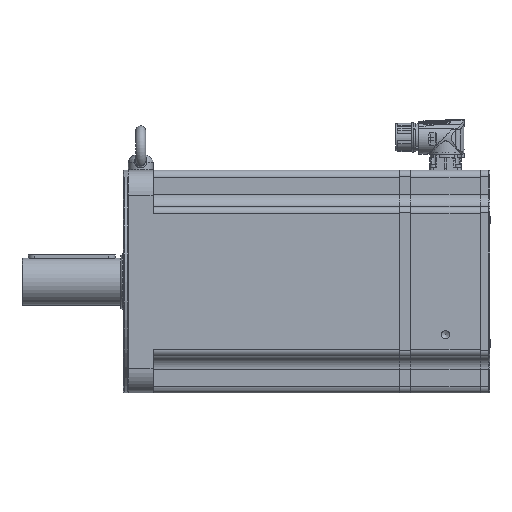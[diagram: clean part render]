
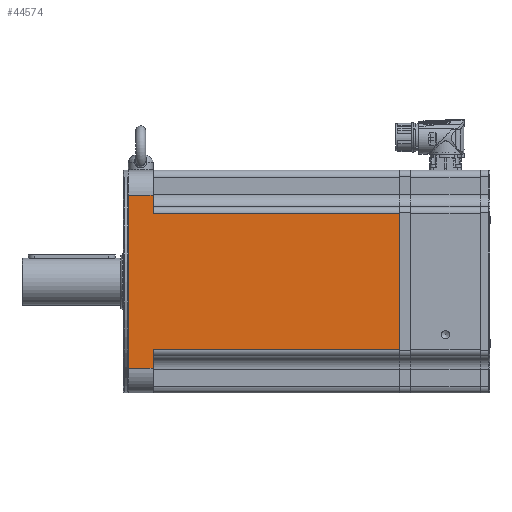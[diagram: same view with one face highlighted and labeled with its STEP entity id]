
A CAD part, left-side view. The second image highlights one B-rep face of the part: STEP entity #44574.
In plain terms, the highlighted planar face has unit normal (-1, 0, 0) as drawn and (1, 0, 0) by its records, which use the part's own axes.
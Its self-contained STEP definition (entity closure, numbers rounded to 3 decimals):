
#1158=PLANE('',#47674);
#4840=LINE('',#71302,#6738);
#4854=LINE('',#71377,#6752);
#4861=LINE('',#71422,#6759);
#4869=LINE('',#71446,#6767);
#4870=LINE('',#71447,#6768);
#4871=LINE('',#71449,#6769);
#4872=LINE('',#71451,#6770);
#4873=LINE('',#71452,#6771);
#6738=VECTOR('',#54956,1000.);
#6752=VECTOR('',#55024,1000.);
#6759=VECTOR('',#55069,1000.);
#6767=VECTOR('',#55093,1000.);
#6768=VECTOR('',#55094,1000.);
#6769=VECTOR('',#55095,1000.);
#6770=VECTOR('',#55096,1000.);
#6771=VECTOR('',#55097,1000.);
#13896=ORIENTED_EDGE('',*,*,#19395,.F.);
#13897=ORIENTED_EDGE('',*,*,#19461,.T.);
#13898=ORIENTED_EDGE('',*,*,#19429,.F.);
#13899=ORIENTED_EDGE('',*,*,#19462,.T.);
#13900=ORIENTED_EDGE('',*,*,#19463,.F.);
#13901=ORIENTED_EDGE('',*,*,#19464,.T.);
#13902=ORIENTED_EDGE('',*,*,#19449,.F.);
#13903=ORIENTED_EDGE('',*,*,#19465,.T.);
#19395=EDGE_CURVE('',#22793,#22794,#4840,.T.);
#19429=EDGE_CURVE('',#22827,#22828,#4854,.T.);
#19449=EDGE_CURVE('',#22847,#22848,#4861,.T.);
#19461=EDGE_CURVE('',#22793,#22828,#4869,.F.);
#19462=EDGE_CURVE('',#22827,#22855,#4870,.T.);
#19463=EDGE_CURVE('',#22856,#22855,#4871,.T.);
#19464=EDGE_CURVE('',#22856,#22848,#4872,.F.);
#19465=EDGE_CURVE('',#22847,#22794,#4873,.T.);
#22793=VERTEX_POINT('',#71301);
#22794=VERTEX_POINT('',#71303);
#22827=VERTEX_POINT('',#71376);
#22828=VERTEX_POINT('',#71378);
#22847=VERTEX_POINT('',#71423);
#22848=VERTEX_POINT('',#71424);
#22855=VERTEX_POINT('',#71448);
#22856=VERTEX_POINT('',#71450);
#26427=EDGE_LOOP('',(#13896,#13897,#13898,#13899,#13900,#13901,#13902,#13903));
#29051=FACE_BOUND('',#26427,.T.);
#44574=ADVANCED_FACE('',(#29051),#1158,.T.);
#47674=AXIS2_PLACEMENT_3D('',#71445,#55091,#55092);
#54956=DIRECTION('',(0.,0.,-1.));
#55024=DIRECTION('',(0.,0.,-1.));
#55069=DIRECTION('',(0.,0.,-1.));
#55091=DIRECTION('',(1.,0.,0.));
#55092=DIRECTION('',(0.,1.,0.));
#55093=DIRECTION('',(0.,1.,0.));
#55094=DIRECTION('',(0.,-1.,0.));
#55095=DIRECTION('',(0.,0.,1.));
#55096=DIRECTION('',(0.,-1.,0.));
#55097=DIRECTION('',(0.,1.,0.));
#71301=CARTESIAN_POINT('',(90.,220.8,55.2));
#71302=CARTESIAN_POINT('',(90.,220.8,-90.));
#71303=CARTESIAN_POINT('',(90.,220.8,-55.2));
#71376=CARTESIAN_POINT('',(90.,21.3,70.));
#71377=CARTESIAN_POINT('',(90.,21.3,-90.));
#71378=CARTESIAN_POINT('',(90.,21.3,55.2));
#71422=CARTESIAN_POINT('',(90.,21.3,-90.));
#71423=CARTESIAN_POINT('',(90.,21.3,-55.2));
#71424=CARTESIAN_POINT('',(90.,21.3,-70.));
#71445=CARTESIAN_POINT('',(90.,488.463,-90.));
#71446=CARTESIAN_POINT('',(90.,488.463,55.2));
#71447=CARTESIAN_POINT('',(90.,488.463,70.));
#71448=CARTESIAN_POINT('',(90.,1.3,70.));
#71449=CARTESIAN_POINT('',(90.,1.3,-90.));
#71450=CARTESIAN_POINT('',(90.,1.3,-70.));
#71451=CARTESIAN_POINT('',(90.,488.463,-70.));
#71452=CARTESIAN_POINT('',(90.,488.463,-55.2));
